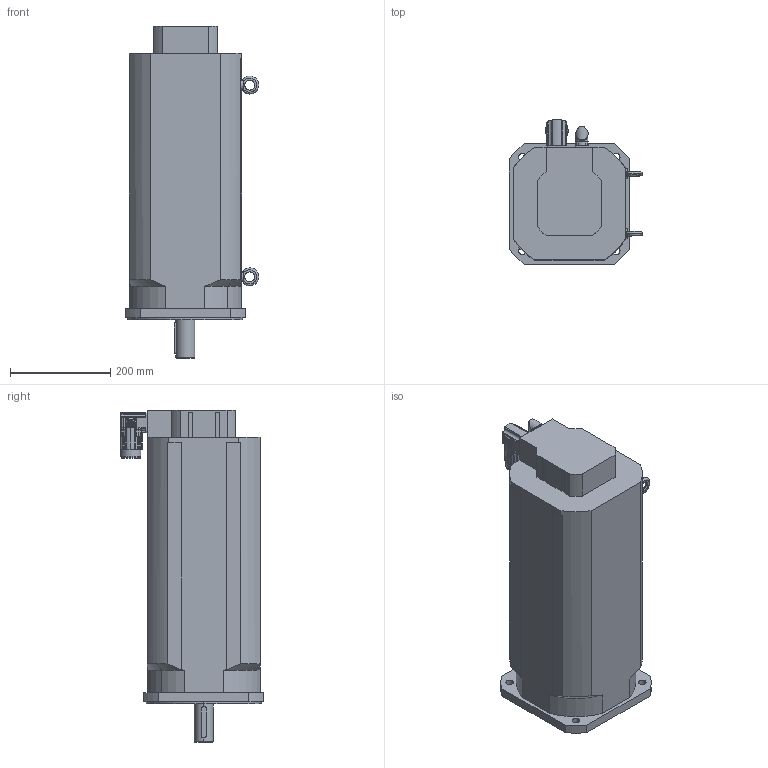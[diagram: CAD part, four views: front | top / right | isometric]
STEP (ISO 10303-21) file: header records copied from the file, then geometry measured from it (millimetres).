
FILE_DESCRIPTION(('STEP AP203'),'2;1');
FILE_NAME('MT8-1150_B.stp','2006-08-28T20:35:01',(''),(''),'2005.2.102','THINKDESIGN','');
FILE_SCHEMA(('CONFIG_CONTROL_DESIGN'));
Length unit declared in the file: millimetre
Bounding box: 266.5 x 287.18 x 663 mm (x, y, z)
Volume: 26382718.6 mm3; surface area: 630829.1 mm2
Topology: 5 solids, 5 shells, 534 faces, 1442 edges, 929 vertices
Faces by surface type: cylinder 259, plane 194, bspline 81
Full cylindrical faces by diameter (mm): 20 x1, 23 x1, 29 x1, 37.8 x1, 40 x1
Entity records: 19287 total; most frequent: CARTESIAN_POINT 5926, ORIENTED_EDGE 2872, DIRECTION 2774, EDGE_CURVE 1436, AXIS2_PLACEMENT_3D 1055, VERTEX_POINT 929, VECTOR 664, LINE 664
